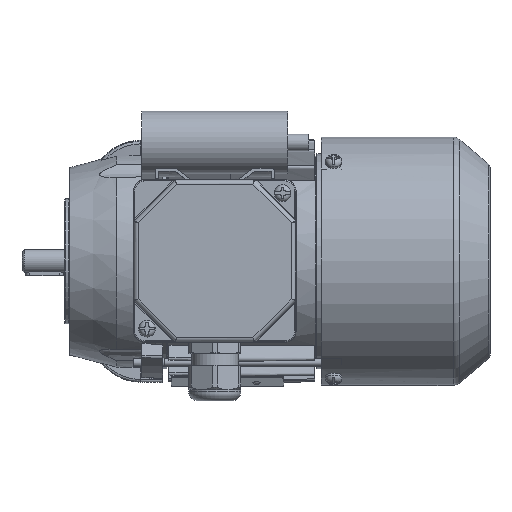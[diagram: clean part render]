
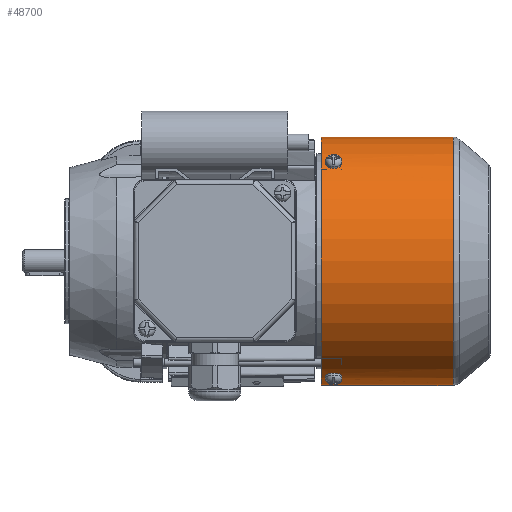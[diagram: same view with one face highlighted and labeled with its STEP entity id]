
A CAD part, top view. The second image highlights one B-rep face of the part: STEP entity #48700.
In plain terms, the highlighted cylindrical face has radius 59.6 mm (diameter 119.2 mm), a full revolution.
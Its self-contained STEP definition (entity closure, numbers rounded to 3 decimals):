
#1099=B_SPLINE_CURVE_WITH_KNOTS('',3,(#78412,#78413,#78414,#78415,#78416,
#78417,#78418),.UNSPECIFIED.,.F.,.F.,(4,1,1,1,4),(0.,0.002,
0.004,0.006,0.008),
 .UNSPECIFIED.);
#1101=B_SPLINE_CURVE_WITH_KNOTS('',3,(#78436,#78437,#78438,#78439,#78440,
#78441,#78442),.UNSPECIFIED.,.F.,.F.,(4,1,1,1,4),(0.,0.002,
0.004,0.006,0.008),
 .UNSPECIFIED.);
#1103=B_SPLINE_CURVE_WITH_KNOTS('',3,(#78464,#78465,#78466,#78467,#78468,
#78469,#78470),.UNSPECIFIED.,.F.,.F.,(4,1,1,1,4),(0.,0.002,
0.004,0.006,0.008),
 .UNSPECIFIED.);
#1105=B_SPLINE_CURVE_WITH_KNOTS('',3,(#78488,#78489,#78490,#78491,#78492,
#78493,#78494),.UNSPECIFIED.,.F.,.F.,(4,1,1,1,4),(0.,0.002,
0.004,0.006,0.008),
 .UNSPECIFIED.);
#1106=B_SPLINE_CURVE_WITH_KNOTS('',3,(#78499,#78500,#78501,#78502,#78503,
#78504,#78505),.UNSPECIFIED.,.F.,.F.,(4,1,1,1,4),(0.,
0.002,0.004,0.006,0.007),
 .UNSPECIFIED.);
#1107=B_SPLINE_CURVE_WITH_KNOTS('',3,(#78508,#78509,#78510,#78511,#78512,
#78513,#78514),.UNSPECIFIED.,.F.,.F.,(4,1,1,1,4),(0.,
0.002,0.004,0.006,0.007),
 .UNSPECIFIED.);
#7479=CYLINDRICAL_SURFACE('',#51990,59.6);
#8249=CIRCLE('',#50602,59.6);
#8960=CIRCLE('',#51974,59.6);
#8962=CIRCLE('',#51979,59.6);
#8963=CIRCLE('',#51981,59.6);
#8965=CIRCLE('',#51985,59.6);
#8967=CIRCLE('',#51989,59.6);
#17979=ORIENTED_EDGE('',*,*,#23884,.T.);
#17980=ORIENTED_EDGE('',*,*,#23881,.T.);
#17981=ORIENTED_EDGE('',*,*,#23889,.T.);
#17982=ORIENTED_EDGE('',*,*,#23887,.T.);
#17983=ORIENTED_EDGE('',*,*,#23903,.F.);
#17984=ORIENTED_EDGE('',*,*,#23904,.F.);
#17985=ORIENTED_EDGE('',*,*,#23897,.T.);
#17986=ORIENTED_EDGE('',*,*,#23894,.T.);
#17987=ORIENTED_EDGE('',*,*,#23902,.T.);
#17988=ORIENTED_EDGE('',*,*,#23900,.T.);
#17989=ORIENTED_EDGE('',*,*,#21883,.F.);
#17990=ORIENTED_EDGE('',*,*,#23890,.T.);
#21883=EDGE_CURVE('',#26215,#26215,#8249,.T.);
#23881=EDGE_CURVE('',#27528,#27531,#1099,.T.);
#23884=EDGE_CURVE('',#27532,#27528,#8960,.F.);
#23887=EDGE_CURVE('',#27534,#27532,#1101,.T.);
#23889=EDGE_CURVE('',#27531,#27534,#8962,.F.);
#23890=EDGE_CURVE('',#27536,#27536,#8963,.F.);
#23894=EDGE_CURVE('',#27537,#27540,#1103,.T.);
#23897=EDGE_CURVE('',#27541,#27537,#8965,.F.);
#23900=EDGE_CURVE('',#27543,#27541,#1105,.T.);
#23902=EDGE_CURVE('',#27540,#27543,#8967,.F.);
#23903=EDGE_CURVE('',#27545,#27546,#1106,.T.);
#23904=EDGE_CURVE('',#27546,#27545,#1107,.T.);
#26215=VERTEX_POINT('',#70994);
#27528=VERTEX_POINT('',#78400);
#27531=VERTEX_POINT('',#78411);
#27532=VERTEX_POINT('',#78421);
#27534=VERTEX_POINT('',#78427);
#27536=VERTEX_POINT('',#78449);
#27537=VERTEX_POINT('',#78452);
#27540=VERTEX_POINT('',#78463);
#27541=VERTEX_POINT('',#78473);
#27543=VERTEX_POINT('',#78479);
#27545=VERTEX_POINT('',#78506);
#27546=VERTEX_POINT('',#78507);
#30299=EDGE_LOOP('',(#17979,#17980,#17981,#17982));
#30300=EDGE_LOOP('',(#17983,#17984));
#30301=EDGE_LOOP('',(#17985,#17986,#17987,#17988));
#30302=EDGE_LOOP('',(#17989));
#30303=EDGE_LOOP('',(#17990));
#32648=FACE_BOUND('',#30299,.T.);
#32649=FACE_BOUND('',#30300,.T.);
#32650=FACE_BOUND('',#30301,.T.);
#32651=FACE_BOUND('',#30302,.T.);
#32652=FACE_BOUND('',#30303,.T.);
#48700=ADVANCED_FACE('',(#32648,#32649,#32650,#32651,#32652),#7479,.T.);
#50602=AXIS2_PLACEMENT_3D('',#70993,#56838,#56839);
#51974=AXIS2_PLACEMENT_3D('',#78424,#60529,#60530);
#51979=AXIS2_PLACEMENT_3D('',#78446,#60540,#60541);
#51981=AXIS2_PLACEMENT_3D('',#78448,#60544,#60545);
#51985=AXIS2_PLACEMENT_3D('',#78476,#60555,#60556);
#51989=AXIS2_PLACEMENT_3D('',#78497,#60564,#60565);
#51990=AXIS2_PLACEMENT_3D('',#78498,#60566,#60567);
#56838=DIRECTION('',(-1.,0.,0.));
#56839=DIRECTION('',(0.,0.,1.));
#60529=DIRECTION('',(-1.,0.,0.));
#60530=DIRECTION('',(0.,0.866,-0.5));
#60540=DIRECTION('',(1.,0.,0.));
#60541=DIRECTION('',(0.,-0.866,0.5));
#60544=DIRECTION('',(1.,0.,0.));
#60545=DIRECTION('',(0.,0.,-1.));
#60555=DIRECTION('',(-1.,0.,0.));
#60556=DIRECTION('',(0.,0.,1.));
#60564=DIRECTION('',(1.,0.,0.));
#60565=DIRECTION('',(0.,0.,-1.));
#60566=DIRECTION('',(-1.,0.,0.));
#60567=DIRECTION('',(0.,0.,1.));
#70993=CARTESIAN_POINT('',(43.5,0.,0.));
#70994=CARTESIAN_POINT('',(43.5,0.,59.6));
#78400=CARTESIAN_POINT('',(52.,46.437,37.36));
#78411=CARTESIAN_POINT('',(47.,46.437,37.36));
#78412=CARTESIAN_POINT('',(52.,46.437,37.36));
#78413=CARTESIAN_POINT('',(52.,46.023,37.874));
#78414=CARTESIAN_POINT('',(51.458,45.191,38.867));
#78415=CARTESIAN_POINT('',(49.502,44.648,39.479));
#78416=CARTESIAN_POINT('',(47.542,45.19,38.869));
#78417=CARTESIAN_POINT('',(47.,46.023,37.874));
#78418=CARTESIAN_POINT('',(47.,46.437,37.36));
#78421=CARTESIAN_POINT('',(52.,47.484,36.02));
#78424=CARTESIAN_POINT('',(52.,0.,0.));
#78427=CARTESIAN_POINT('',(47.,47.484,36.02));
#78436=CARTESIAN_POINT('',(47.,47.484,36.02));
#78437=CARTESIAN_POINT('',(47.,47.883,35.493));
#78438=CARTESIAN_POINT('',(47.542,48.645,34.446));
#78439=CARTESIAN_POINT('',(49.498,49.108,33.771));
#78440=CARTESIAN_POINT('',(51.458,48.646,34.444));
#78441=CARTESIAN_POINT('',(52.,47.883,35.493));
#78442=CARTESIAN_POINT('',(52.,47.484,36.02));
#78446=CARTESIAN_POINT('',(47.,0.,0.));
#78448=CARTESIAN_POINT('',(106.809,0.,0.));
#78449=CARTESIAN_POINT('',(106.809,0.,-59.6));
#78452=CARTESIAN_POINT('',(52.,-55.573,21.536));
#78463=CARTESIAN_POINT('',(47.,-55.573,21.536));
#78464=CARTESIAN_POINT('',(52.,-55.573,21.536));
#78465=CARTESIAN_POINT('',(52.,-55.812,20.92));
#78466=CARTESIAN_POINT('',(51.458,-56.255,19.703));
#78467=CARTESIAN_POINT('',(49.502,-56.514,18.927));
#78468=CARTESIAN_POINT('',(47.542,-56.256,19.701));
#78469=CARTESIAN_POINT('',(47.,-55.812,20.92));
#78470=CARTESIAN_POINT('',(47.,-55.573,21.536));
#78473=CARTESIAN_POINT('',(52.,-54.936,23.112));
#78476=CARTESIAN_POINT('',(52.,0.,0.));
#78479=CARTESIAN_POINT('',(47.,-54.936,23.112));
#78488=CARTESIAN_POINT('',(47.,-54.936,23.112));
#78489=CARTESIAN_POINT('',(47.,-54.68,23.721));
#78490=CARTESIAN_POINT('',(47.542,-54.154,24.905));
#78491=CARTESIAN_POINT('',(49.498,-53.8,25.643));
#78492=CARTESIAN_POINT('',(51.458,-54.153,24.907));
#78493=CARTESIAN_POINT('',(52.,-54.68,23.721));
#78494=CARTESIAN_POINT('',(52.,-54.936,23.112));
#78497=CARTESIAN_POINT('',(47.,0.,0.));
#78498=CARTESIAN_POINT('',(-16.5,0.,0.));
#78499=CARTESIAN_POINT('',(52.,8.295,-59.02));
#78500=CARTESIAN_POINT('',(51.937,7.681,-59.106));
#78501=CARTESIAN_POINT('',(51.356,6.499,-59.249));
#78502=CARTESIAN_POINT('',(49.502,5.777,-59.318));
#78503=CARTESIAN_POINT('',(47.649,6.493,-59.25));
#78504=CARTESIAN_POINT('',(47.063,7.681,-59.106));
#78505=CARTESIAN_POINT('',(47.,8.295,-59.02));
#78506=CARTESIAN_POINT('',(52.,8.295,-59.02));
#78507=CARTESIAN_POINT('',(47.,8.295,-59.02));
#78508=CARTESIAN_POINT('',(47.,8.295,-59.02));
#78509=CARTESIAN_POINT('',(47.063,8.908,-58.934));
#78510=CARTESIAN_POINT('',(47.644,10.084,-58.746));
#78511=CARTESIAN_POINT('',(49.498,10.797,-58.613));
#78512=CARTESIAN_POINT('',(51.351,10.09,-58.745));
#78513=CARTESIAN_POINT('',(51.937,8.908,-58.934));
#78514=CARTESIAN_POINT('',(52.,8.295,-59.02));
